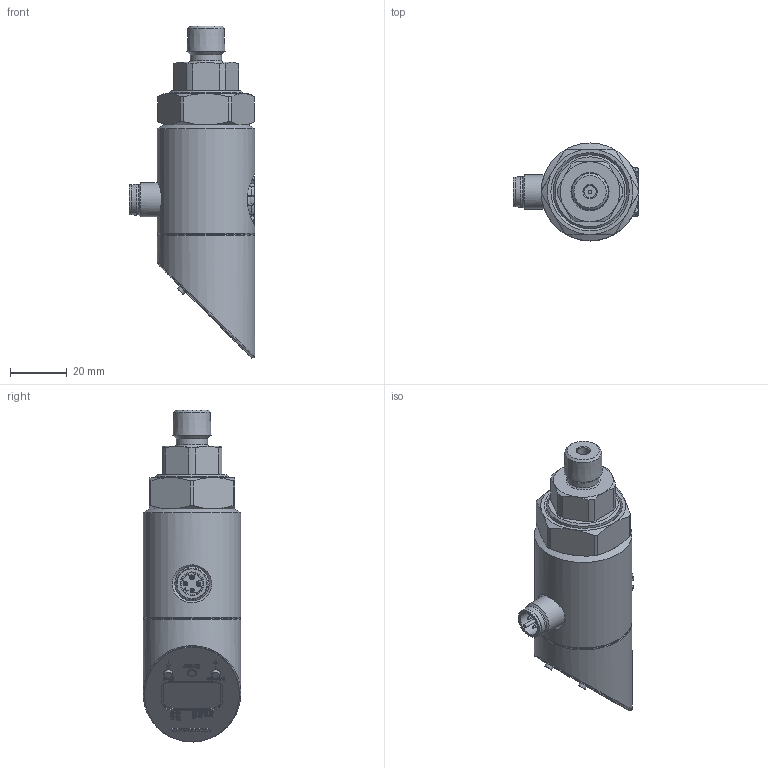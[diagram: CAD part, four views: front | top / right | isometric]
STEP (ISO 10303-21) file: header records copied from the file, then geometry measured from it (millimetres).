
FILE_DESCRIPTION((''),'2;1');
FILE_NAME('C:\TurckZip\PS-503-X-H1.stp','2007-04-17T07:09:36',('IKOROL'),(''),'Autodesk Inventor 11','Autodesk Inventor 11','');
FILE_SCHEMA(('AUTOMOTIVE_DESIGN { 1 0 10303 214 1 1 1 1 }'));
Length unit declared in the file: millimetre
Products named in the file (1): Part29
Bounding box: 44.15 x 34.3 x 116.51 mm (x, y, z)
Volume: 69654 mm3; surface area: 17077.9 mm2
Topology: 3 solids, 3 shells, 964 faces, 2566 edges, 1696 vertices
Faces by surface type: plane 560, bspline 227, cylinder 113, cone 43, torus 21
Full cylindrical faces by diameter (mm): 0.8 x4, 1 x8, 1.25 x1, 1.3 x4, 1.8 x4, 2.8 x3, 3.25 x3, 4.3 x1, 4.451 x1, 8 x1, 8.3 x1, 9 x3, 9.15 x1, 10.5 x1, 11 x1, 12 x2, 13.1 x1, 18.3 x1, 18.6 x1, 25.5 x1, 25.9 x1, 34.3 x2
Entity records: 31846 total; most frequent: CARTESIAN_POINT 9743, ORIENTED_EDGE 4926, DIRECTION 3694, EDGE_CURVE 2463, VERTEX_POINT 1674, VECTOR 1656, LINE 1656, EDGE_LOOP 1144
